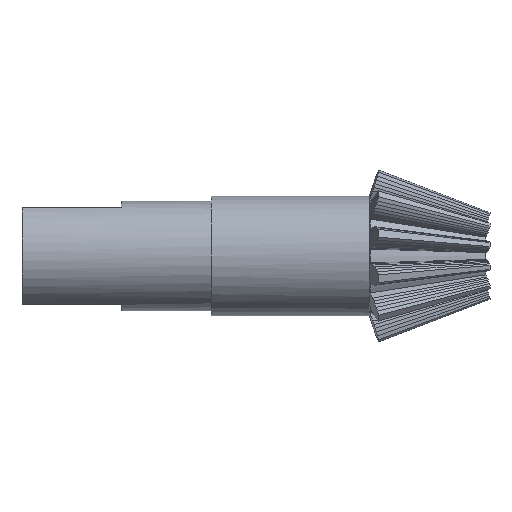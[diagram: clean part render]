
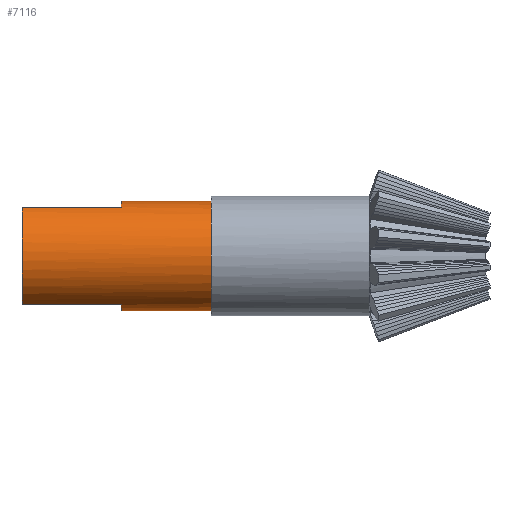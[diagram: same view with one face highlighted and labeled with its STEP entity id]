
A CAD part, left-side view. The second image highlights one B-rep face of the part: STEP entity #7116.
In plain terms, the highlighted cylindrical face has radius 5.5 mm (diameter 11 mm), a partial arc.
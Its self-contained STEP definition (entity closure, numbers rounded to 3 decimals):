
#41 = EDGE_CURVE ( 'NONE', #6741, #452, #6514, .T. ) ;
#172 = LINE ( 'NONE', #4717, #5505 ) ;
#224 = DIRECTION ( 'NONE',  ( 0., 1., 0. ) ) ;
#227 = EDGE_CURVE ( 'NONE', #5180, #5079, #172, .T. ) ;
#256 = AXIS2_PLACEMENT_3D ( 'NONE', #3070, #5432, #6709 ) ;
#371 = VERTEX_POINT ( 'NONE', #2945 ) ;
#390 = VECTOR ( 'NONE', #4133, 1000. ) ;
#452 = VERTEX_POINT ( 'NONE', #3521 ) ;
#489 = ORIENTED_EDGE ( 'NONE', *, *, #3689, .F. ) ;
#599 = VECTOR ( 'NONE', #2421, 1000. ) ;
#690 = FACE_OUTER_BOUND ( 'NONE', #4129, .T. ) ;
#804 = CARTESIAN_POINT ( 'NONE',  ( 0., 58.914, 9.342 ) ) ;
#1102 = EDGE_CURVE ( 'NONE', #1751, #1811, #3518, .T. ) ;
#1155 = ORIENTED_EDGE ( 'NONE', *, *, #5351, .T. ) ;
#1365 = CIRCLE ( 'NONE', #5723, 5.5 ) ;
#1453 = AXIS2_PLACEMENT_3D ( 'NONE', #4895, #6758, #7385 ) ;
#1541 = DIRECTION ( 'NONE',  ( 0., 0., 1. ) ) ;
#1751 = VERTEX_POINT ( 'NONE', #2863 ) ;
#1759 = CARTESIAN_POINT ( 'NONE',  ( 0., 48.914, 3.842 ) ) ;
#1811 = VERTEX_POINT ( 'NONE', #4023 ) ;
#1950 = CIRCLE ( 'NONE', #1453, 5.5 ) ;
#2032 = AXIS2_PLACEMENT_3D ( 'NONE', #5743, #4567, #3445 ) ;
#2091 = ORIENTED_EDGE ( 'NONE', *, *, #227, .F. ) ;
#2178 = EDGE_CURVE ( 'NONE', #371, #5180, #1365, .T. ) ;
#2421 = DIRECTION ( 'NONE',  ( 0., -1., 0. ) ) ;
#2474 = VECTOR ( 'NONE', #5764, 1000. ) ;
#2548 = EDGE_CURVE ( 'NONE', #7409, #1811, #5029, .T. ) ;
#2702 = ORIENTED_EDGE ( 'NONE', *, *, #2548, .T. ) ;
#2781 = LINE ( 'NONE', #6368, #2474 ) ;
#2863 = CARTESIAN_POINT ( 'NONE',  ( 0., 48.914, 14.842 ) ) ;
#2945 = CARTESIAN_POINT ( 'NONE',  ( -2.5, 58.914, 4.443 ) ) ;
#3070 = CARTESIAN_POINT ( 'NONE',  ( 0., 48.914, 9.342 ) ) ;
#3108 = ORIENTED_EDGE ( 'NONE', *, *, #2178, .F. ) ;
#3445 = DIRECTION ( 'NONE',  ( 0., 0., 1. ) ) ;
#3518 = LINE ( 'NONE', #3545, #599 ) ;
#3521 = CARTESIAN_POINT ( 'NONE',  ( -2.5, 48.914, 4.443 ) ) ;
#3545 = CARTESIAN_POINT ( 'NONE',  ( 0., 48.914, 14.842 ) ) ;
#3689 = EDGE_CURVE ( 'NONE', #5079, #1751, #1950, .T. ) ;
#4023 = CARTESIAN_POINT ( 'NONE',  ( 0., 39.914, 14.842 ) ) ;
#4097 = CARTESIAN_POINT ( 'NONE',  ( 0., 39.914, 3.842 ) ) ;
#4129 = EDGE_LOOP ( 'NONE', ( #5576, #489, #2091, #3108, #1155, #5919, #5290, #2702 ) ) ;
#4133 = DIRECTION ( 'NONE',  ( 0., -1., 0. ) ) ;
#4239 = CARTESIAN_POINT ( 'NONE',  ( -2.5, 58.914, 14.241 ) ) ;
#4567 = DIRECTION ( 'NONE',  ( 0., 1., 0. ) ) ;
#4717 = CARTESIAN_POINT ( 'NONE',  ( -2.5, 58.914, 14.241 ) ) ;
#4895 = CARTESIAN_POINT ( 'NONE',  ( 0., 48.914, 9.342 ) ) ;
#4975 = DIRECTION ( 'NONE',  ( 0., 0., 1. ) ) ;
#5029 = CIRCLE ( 'NONE', #5153, 5.5 ) ;
#5079 = VERTEX_POINT ( 'NONE', #6109 ) ;
#5153 = AXIS2_PLACEMENT_3D ( 'NONE', #6148, #224, #1541 ) ;
#5180 = VERTEX_POINT ( 'NONE', #4239 ) ;
#5290 = ORIENTED_EDGE ( 'NONE', *, *, #6226, .T. ) ;
#5351 = EDGE_CURVE ( 'NONE', #371, #452, #2781, .T. ) ;
#5432 = DIRECTION ( 'NONE',  ( 0., -1., 0. ) ) ;
#5505 = VECTOR ( 'NONE', #6206, 1000. ) ;
#5516 = CARTESIAN_POINT ( 'NONE',  ( 0., 48.914, 3.842 ) ) ;
#5576 = ORIENTED_EDGE ( 'NONE', *, *, #1102, .F. ) ;
#5723 = AXIS2_PLACEMENT_3D ( 'NONE', #804, #6833, #4975 ) ;
#5743 = CARTESIAN_POINT ( 'NONE',  ( 0., 48.914, 9.342 ) ) ;
#5764 = DIRECTION ( 'NONE',  ( 0., -1., 0. ) ) ;
#5919 = ORIENTED_EDGE ( 'NONE', *, *, #41, .F. ) ;
#6109 = CARTESIAN_POINT ( 'NONE',  ( -2.5, 48.914, 14.241 ) ) ;
#6148 = CARTESIAN_POINT ( 'NONE',  ( 0., 39.914, 9.342 ) ) ;
#6149 = CYLINDRICAL_SURFACE ( 'NONE', #256, 5.5 ) ;
#6206 = DIRECTION ( 'NONE',  ( 0., -1., 0. ) ) ;
#6226 = EDGE_CURVE ( 'NONE', #6741, #7409, #6607, .T. ) ;
#6368 = CARTESIAN_POINT ( 'NONE',  ( -2.5, 58.914, 4.443 ) ) ;
#6514 = CIRCLE ( 'NONE', #2032, 5.5 ) ;
#6607 = LINE ( 'NONE', #1759, #390 ) ;
#6709 = DIRECTION ( 'NONE',  ( 0., 0., -1. ) ) ;
#6741 = VERTEX_POINT ( 'NONE', #5516 ) ;
#6758 = DIRECTION ( 'NONE',  ( 0., 1., 0. ) ) ;
#6833 = DIRECTION ( 'NONE',  ( 0., 1., 0. ) ) ;
#7116 = ADVANCED_FACE ( 'NONE', ( #690 ), #6149, .T. ) ;
#7385 = DIRECTION ( 'NONE',  ( 0., 0., 1. ) ) ;
#7409 = VERTEX_POINT ( 'NONE', #4097 ) ;
